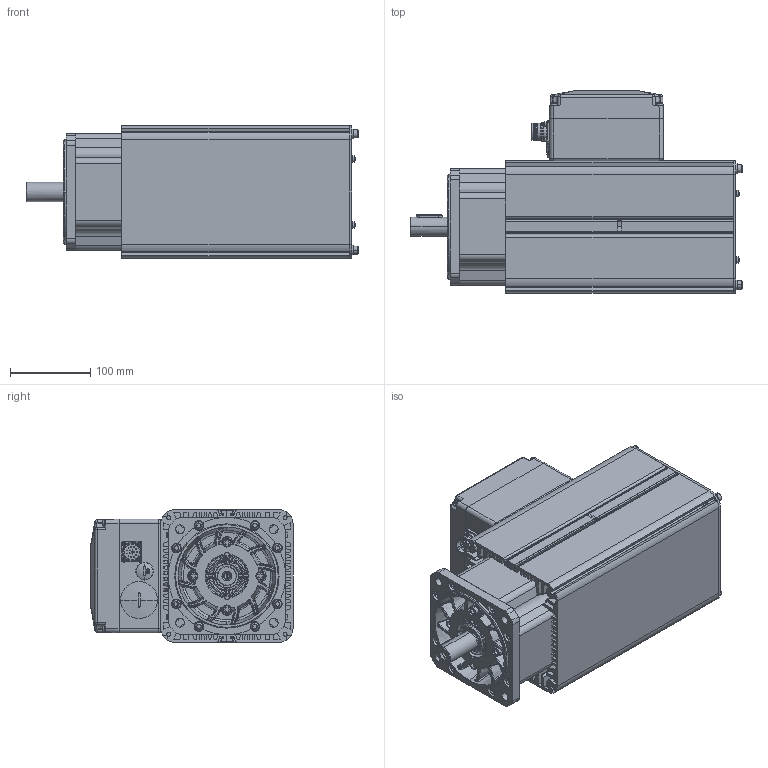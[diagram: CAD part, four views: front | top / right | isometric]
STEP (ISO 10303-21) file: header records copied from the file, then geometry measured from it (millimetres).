
FILE_DESCRIPTION((''),'2;1');
FILE_NAME('70045N-0_SW0001','2019-11-21T',('zhangyanli'),(''),'PRO/ENGINEER BY PARAMETRIC TECHNOLOGY CORPORATION, 2010430','PRO/ENGINEER BY PARAMETRIC TECHNOLOGY CORPORATION, 2010430','');
FILE_SCHEMA(('CONFIG_CONTROL_DESIGN'));
Products named in the file (1): 70045N-0_SW0001
Bounding box: 413.9 x 252 x 165 mm (x, y, z)
Surface area: 1154148.7 mm2 (no closed solid volume)
Topology: 0 solids, 121 shells, 1916 faces, 5743 edges, 3911 vertices
Faces by surface type: plane 793, cylinder 511, bspline 238, torus 162, cone 156, sphere 48, revolution 6, extrusion 2
Entity records: 80633 total; most frequent: CARTESIAN_POINT 31016, DIRECTION 10250, ORIENTED_EDGE 9601, EDGE_CURVE 5741, VERTEX_POINT 3911, AXIS2_PLACEMENT_3D 3848, VECTOR 2548, LINE 2546
